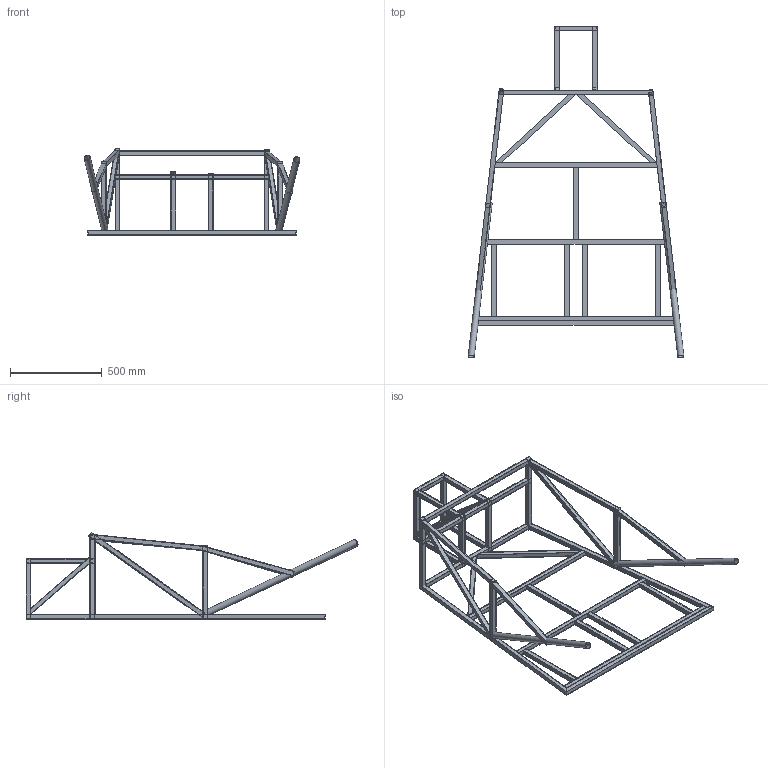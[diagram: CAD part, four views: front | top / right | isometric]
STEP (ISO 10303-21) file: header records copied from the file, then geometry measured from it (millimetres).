
FILE_DESCRIPTION(('FreeCAD Model'),'2;1');
FILE_NAME('Open CASCADE Shape Model','2025-12-18T07:32:28',(''),(''), 'Open CASCADE STEP processor 7.8','FreeCAD','Unknown');
FILE_SCHEMA(('AUTOMOTIVE_DESIGN { 1 0 10303 214 1 1 1 1 }'));
Length unit declared in the file: millimetre
Products named in the file (56): bas_chassis_V2_only_scketcher_4; TrimmedProfile001; TrimmedProfile003; TrimmedProfile004; TrimmedProfile008; TrimmedProfile009; TrimmedProfile011; TrimmedProfile012; Profile_25x2_0_020; Open CASCADE STEP translator 7.8 1.8.1; Profile_25x2_0_023; Open CASCADE STEP translator 7.8 1.9.1; Latéral gauche; Profile_25x2_0_027; Open CASCADE STEP translator 7.8 1.11.1; Profile_26x34_1__000; Open CASCADE STEP translator 7.8 1.12.1; TrimmedProfile013; TrimmedProfile014; Latéral Droit; Profile_25x2_0_032; Open CASCADE STEP translator 7.8 1.16.1; Profile_25x2_0_035; Open CASCADE STEP translator 7.8 1.17.1; Profile_26x34_1__001; Open CASCADE STEP translator 7.8 1.18.1; Profile_25x2_0_037; Open CASCADE STEP translator 7.8 1.19.1; Profile_25x2_0_038; Open CASCADE STEP translator 7.8 1.20.1; Profile_25x2_0_039; Open CASCADE STEP translator 7.8 1.21.1; TrimmedProfile015; TrimmedProfile016; TrimmedProfile018; TrimmedProfile019; TrimmedProfile020; TrimmedProfile021; TrimmedProfile022; TrimmedProfile028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
Assembly tree (55 placements, depth 3):
  bas_chassis_V2_only_scketcher_4
    TrimmedProfile001
    TrimmedProfile003
    TrimmedProfile004
    TrimmedProfile008
    TrimmedProfile009
    TrimmedProfile011
    TrimmedProfile012
    Profile_25x2_0_020
      Open CASCADE STEP translator 7.8 1.8.1
    Profile_25x2_0_023
      Open CASCADE STEP translator 7.8 1.9.1
    Latéral gauche
    Profile_25x2_0_027
      Open CASCADE STEP translator 7.8 1.11.1
    Profile_26x34_1__000
      Open CASCADE STEP translator 7.8 1.12.1
    TrimmedProfile013
    TrimmedProfile014
    Latéral Droit
    Profile_25x2_0_032
      Open CASCADE STEP translator 7.8 1.16.1
    Profile_25x2_0_035
      Open CASCADE STEP translator 7.8 1.17.1
    Profile_26x34_1__001
      Open CASCADE STEP translator 7.8 1.18.1
    Profile_25x2_0_037
      Open CASCADE STEP translator 7.8 1.19.1
    Profile_25x2_0_038
      Open CASCADE STEP translator 7.8 1.20.1
    Profile_25x2_0_039
      Open CASCADE STEP translator 7.8 1.21.1
    TrimmedProfile015
    TrimmedProfile016
    TrimmedProfile018
    TrimmedProfile019
    TrimmedProfile020
    TrimmedProfile021
    TrimmedProfile022
    TrimmedProfile028
    TrimmedProfile029
    TrimmedProfile030
    TrimmedProfile033
    TrimmedProfile034
    TrimmedProfile035
    TrimmedProfile036
    TrimmedProfile037
    TrimmedProfile038
    TrimmedProfile039
    TrimmedProfile040
    TrimmedProfile041
    Sketch009
    Profile_25x2_0_045
      Open CASCADE STEP translator 7.8 1.42.1
    Profile_25x2_0_046
      Open CASCADE STEP translator 7.8 1.43.1
Bounding box: 1179.29 x 1814.22 x 477.52 mm (x, y, z)
Volume: 4229222.9 mm3; surface area: 4354053.9 mm2
Topology: 40 solids, 40 shells, 421 faces, 1050 edges, 720 vertices
Faces by surface type: plane 417, cylinder 4
Full cylindrical faces by diameter (mm): 30.8 x2, 33.7 x2
Entity records: 13816 total; most frequent: CARTESIAN_POINT 2247, ORIENTED_EDGE 2070, DIRECTION 2012, LINE 1042, VECTOR 1042, EDGE_CURVE 1035, VERTEX_POINT 690, FACE_BOUND 505
